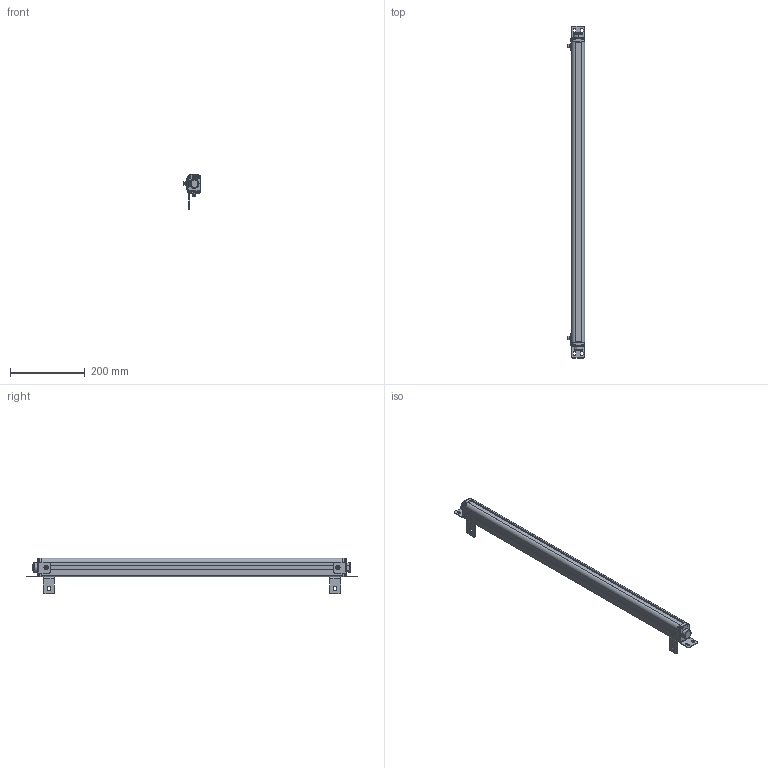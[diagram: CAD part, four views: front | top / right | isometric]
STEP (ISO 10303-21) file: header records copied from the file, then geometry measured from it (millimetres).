
FILE_DESCRIPTION((''),'2;1');
FILE_NAME('ESN--000_ASM','2021-08-11T16:23:58',('18720616900'),(''),'CREO PARAMETRIC BY PTC INC, 2019010','CREO PARAMETRIC BY PTC INC, 2019010','');
FILE_SCHEMA(('CONFIG_CONTROL_DESIGN'));
Products named in the file (22): 00; 000; _0002; _0003; _0004; 5000; 5--0001; ESN_50001_ASM; ST-3-120001; L10001; M6-8--0001; M6-1--00; M6-1-00; M6-80001_ASM; L1--0001_ASM; H1--000; H1--0003_ASM; H1--0001_ASM; ESN--000_ASM
Assembly tree (35 placements, depth 4):
  ESN--000_ASM
    00
    000
    _0002
    _0003
    _0004
    000
    ESN_50001_ASM
      5000
      5--0001  x5
    ST-3-120001  x8
    L1--0001_ASM  x2
      L10001
      M6-80001_ASM
        M6-8--0001
        M6-1--00
        M6-1-00
        00
    H1--0003_ASM
      H1--000
      M6-80001_ASM
        M6-8--0001
        M6-1--00
        M6-1-00
        00
    H1--0001_ASM
      H1--000
      M6-80001_ASM
        M6-8--0001
        M6-1--00
        M6-1-00
        00
Bounding box: 46.5 x 887 x 94.95 mm (x, y, z)
Volume: 1249129.8 mm3; surface area: 274208.5 mm2
Topology: 40 solids, 40 shells, 1785 faces, 4708 edges, 3012 vertices
Faces by surface type: plane 583, cylinder 416, bspline 362, cone 291, torus 107, sphere 26
Entity records: 48222 total; most frequent: CARTESIAN_POINT 24957, ORIENTED_EDGE 5136, DIRECTION 4189, EDGE_CURVE 2568, VERTEX_POINT 1669, AXIS2_PLACEMENT_3D 1488, VECTOR 1213, LINE 1213
